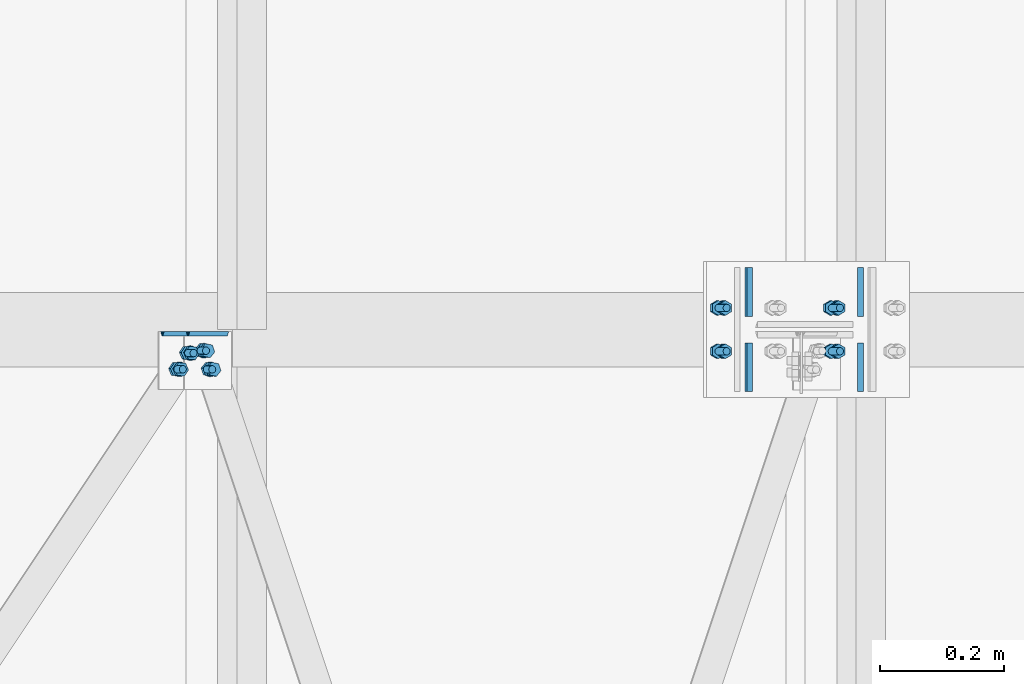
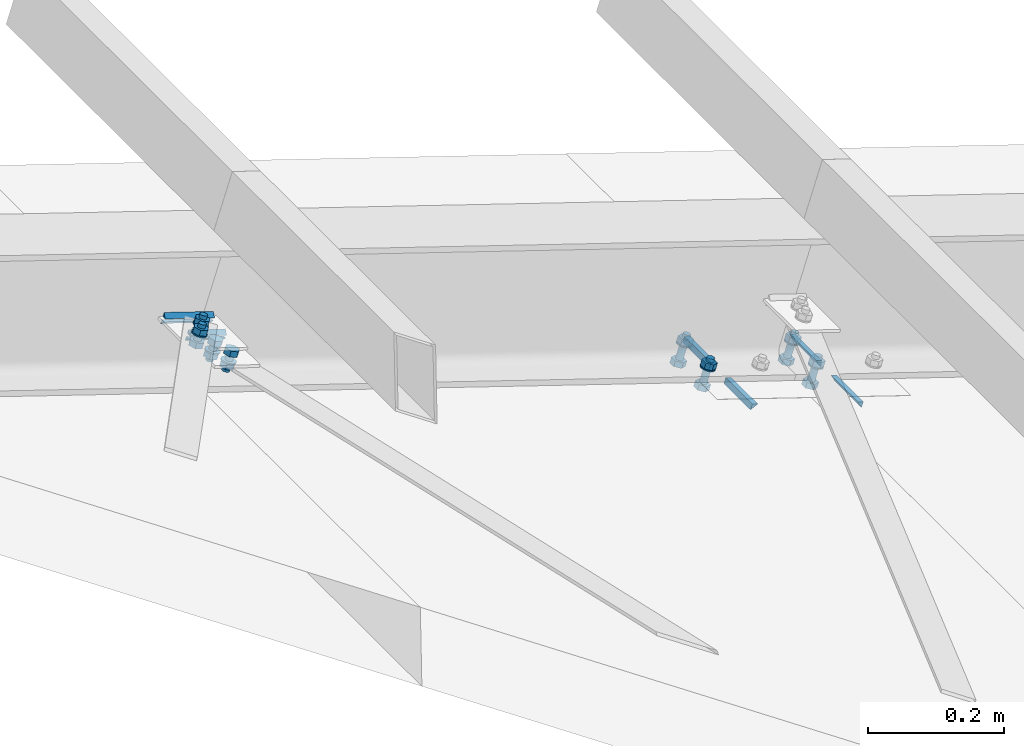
# One storey, part 49 of 53: 32 mechanical fasteners, 12 fasteners.
"""IFC4 building model written with IfcOpenShell, lengths in metres."""

from ifc_helpers import new_model, si_unit, frame, origin_with_axes, place, context, project, spatial, polyline, outline, extrude, type_object, element, save


model = new_model("IFC4")

# Units and contexts
model_context = context("Model", 3, precision=1e-05, world=origin_with_axes())
ifc_project = project(units=[si_unit("LENGTHUNIT", "METRE"), si_unit("AREAUNIT", "SQUARE_METRE"), si_unit("VOLUMEUNIT", "CUBIC_METRE"), si_unit("MASSUNIT", "GRAM", prefix="KILO"), si_unit("TIMEUNIT", "SECOND"), si_unit("PLANEANGLEUNIT", "RADIAN"), si_unit("SOLIDANGLEUNIT", "STERADIAN"), si_unit("THERMODYNAMICTEMPERATUREUNIT", "DEGREE_CELSIUS")], contexts=[model_context])

# Site, building, storey
placement_1 = place(None, origin_with_axes())
site = spatial("IfcSite", under=ifc_project, at=placement_1, Name="Italia", CompositionType="ELEMENT")
building = spatial("IfcBuilding", under=site, at=placement_1, Name="Capannone", CompositionType="ELEMENT")
storey_placement = place(None, frame((0.0, 0.0, 5.550000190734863), z_axis=(0.0, 0.0, 1.0), x_axis=(1.0, 0.0, 0.0)))
storey = spatial("IfcBuildingStorey", under=building, at=storey_placement, Name="Storey 1", CompositionType="ELEMENT", Elevation=5.550000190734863)

# Mechanical fasteners
mechanical_fastener_type_1 = type_object("IfcMechanicalFastenerType", Name="Collegamento -1058_-1088", PredefinedType="BOLT")
placement_2 = place(placement_1, origin_with_axes())
mechanical_fastener_1_placement = place(placement_2, origin_with_axes())
element("IfcMechanicalFastener", 1, at=mechanical_fastener_1_placement, inside=storey, type_object=mechanical_fastener_type_1, Name="Collegamento -1058_-1088", NominalDiameter=0.0119995, context=model_context, shape_type="SweptSolid", body=[
    extrude(outline(polyline([(0.0, 0.0), (-0.00982285, -0.00689316), (-0.00876522, -0.0188465), (0.0021162, -0.0239067), (0.011939, -0.0170145), (0.0108805, -0.0050602), (0.0, 0.0)])), frame((12.9922, 14.9631, 5.97849), z_axis=(-0.312127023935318, 0.0, -0.950040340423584), x_axis=(0.0, -1.0, 0.0)), (0.0, 0.0, 1.0), 0.00960008),
])
mechanical_fastener_type_2 = type_object("IfcMechanicalFastenerType", Name="Collegamento -1058_-1088", PredefinedType="BOLT")
mechanical_fastener_2_placement = place(placement_2, origin_with_axes())
element("IfcMechanicalFastener", 2, at=mechanical_fastener_2_placement, inside=storey, type_object=mechanical_fastener_type_2, Name="Collegamento -1058_-1088", NominalDiameter=0.012, context=model_context, shape_type="SweptSolid", body=[
    extrude(outline(polyline([(0.0, 0.0), (-0.000204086, -0.00155258), (-0.000802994, -0.00300026), (-0.00175667, -0.00424194), (-0.00299931, -0.00519657), (-0.00444698, -0.00579548), (-0.00599957, -0.00600052), (-0.00755215, -0.00579548), (-0.00899982, -0.00519657), (-0.0102425, -0.00424194), (-0.0111961, -0.00300026), (-0.011795, -0.00155258), (-0.0119991, 0.0), (-0.011795, 0.00155258), (-0.0111961, 0.00300026), (-0.0102425, 0.0042429), (-0.00899982, 0.00519562), (-0.00755215, 0.00579548), (-0.00599957, 0.00599957), (-0.00444698, 0.00579548), (-0.00299931, 0.00519562), (-0.00175667, 0.0042429), (-0.000802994, 0.00300026), (-0.000204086, 0.00155258), (0.0, 0.0)])), frame((13.0123, 14.9561, 6.00136), z_axis=(-0.312158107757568, 0.0, -0.950030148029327), x_axis=(0.0, -1.0, 0.0)), (0.0, 0.0, 1.0), 0.028),
])
mechanical_fastener_type_3 = type_object("IfcMechanicalFastenerType", Name="Collegamento -1058_-1088", PredefinedType="BOLT")
mechanical_fastener_3_placement = place(placement_2, origin_with_axes())
element("IfcMechanicalFastener", 3, at=mechanical_fastener_3_placement, inside=storey, type_object=mechanical_fastener_type_3, Name="Collegamento -1058_-1088", NominalDiameter=0.0119995, context=model_context, shape_type="SweptSolid", body=[
    extrude(outline(polyline([(0.0, 0.0), (-0.00982285, -0.0068922), (-0.00876522, -0.0188465), (0.0021162, -0.0239067), (0.011939, -0.0170126), (0.0108805, -0.0050602), (0.0, 0.0)])), frame((12.999, 14.9631, 5.99901), z_axis=(-0.312127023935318, 0.0, -0.950040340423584), x_axis=(0.0, -1.0, 0.0)), (0.0, 0.0, 1.0), 0.00960008),
])
mechanical_fastener_type_4 = type_object("IfcMechanicalFastenerType", Name="Collegamento -1058_-1088", PredefinedType="BOLT")
mechanical_fastener_4_placement = place(placement_2, origin_with_axes())
element("IfcMechanicalFastener", 4, at=mechanical_fastener_4_placement, inside=storey, type_object=mechanical_fastener_type_4, Name="Collegamento -1058_-1088", NominalDiameter=0.024, context=model_context, shape_type="SweptSolid", body=[
    extrude(outline(polyline([(0.0, 0.0), (-0.000409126, -0.00310516), (-0.00160789, -0.00600052), (-0.00351524, -0.00848579), (-0.00600052, -0.0103922), (-0.00889397, -0.0115919), (-0.0120001, -0.0120001), (-0.0151062, -0.0115919), (-0.0179996, -0.0103922), (-0.0204849, -0.00848579), (-0.0223923, -0.00600052), (-0.023591, -0.00310516), (-0.0240002, 0.0), (-0.023591, 0.00310612), (-0.0223923, 0.00600052), (-0.0204849, 0.00848579), (-0.0179996, 0.0103922), (-0.0151062, 0.011591), (-0.0120001, 0.0120001), (-0.00889397, 0.011591), (-0.00600052, 0.0103922), (-0.00351524, 0.00848579), (-0.00160789, 0.00600052), (-0.000409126, 0.00310612), (0.0, 0.0)])), frame((13.0073, 14.9501, 5.98616), z_axis=(-0.311931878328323, 0.0, -0.950104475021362), x_axis=(0.0, -1.0, 0.0)), (0.0, 0.0, 1.0), 0.00199948),
])
mechanical_fastener_type_5 = type_object("IfcMechanicalFastenerType", Name="Collegamento -1058_-1088", PredefinedType="BOLT")
mechanical_fastener_5_placement = place(placement_2, origin_with_axes())
element("IfcMechanicalFastener", 5, at=mechanical_fastener_5_placement, inside=storey, type_object=mechanical_fastener_type_5, Name="Collegamento -1058_-1088", NominalDiameter=0.0119994, context=model_context, shape_type="SweptSolid", body=[
    extrude(outline(polyline([(0.0, 0.0), (-0.00982285, -0.0068922), (-0.00876427, -0.0188465), (0.0021162, -0.0239067), (0.011939, -0.0170126), (0.0108814, -0.0050602), (0.0, 0.0)])), frame((12.9748, 14.9369, 5.98423), z_axis=(-0.312216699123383, 0.0, -0.950010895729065), x_axis=(0.0, -1.0, 0.0)), (0.0, 0.0, 1.0), 0.00960038),
])
mechanical_fastener_type_6 = type_object("IfcMechanicalFastenerType", Name="Collegamento -1058_-1088", PredefinedType="BOLT")
mechanical_fastener_6_placement = place(placement_2, origin_with_axes())
element("IfcMechanicalFastener", 6, at=mechanical_fastener_6_placement, inside=storey, type_object=mechanical_fastener_type_6, Name="Collegamento -1058_-1088", NominalDiameter=0.012, context=model_context, shape_type="SweptSolid", body=[
    extrude(outline(polyline([(0.0, 0.0), (-0.000204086, -0.00155354), (-0.000802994, -0.00300121), (-0.00175667, -0.0042429), (-0.00299931, -0.00519657), (-0.00444698, -0.00579548), (-0.00599957, -0.00600052), (-0.00755215, -0.00579548), (-0.00899982, -0.00519657), (-0.0102425, -0.0042429), (-0.0111961, -0.00300121), (-0.011795, -0.00155354), (-0.0119991, 0.0), (-0.011795, 0.00155163), (-0.0111961, 0.00299931), (-0.0102425, 0.00424099), (-0.00899982, 0.00519466), (-0.00755215, 0.00579453), (-0.00599957, 0.00599957), (-0.00444698, 0.00579453), (-0.00299931, 0.00519466), (-0.00175667, 0.00424099), (-0.000802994, 0.00299931), (-0.000204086, 0.00155163), (0.0, 0.0)])), frame((12.9949, 14.9299, 6.00709), z_axis=(-0.312127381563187, 0.0, -0.950040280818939), x_axis=(0.0, -1.0, 0.0)), (0.0, 0.0, 1.0), 0.0279997),
])
mechanical_fastener_type_7 = type_object("IfcMechanicalFastenerType", Name="Collegamento -1058_-1088", PredefinedType="BOLT")
mechanical_fastener_7_placement = place(placement_2, origin_with_axes())
element("IfcMechanicalFastener", 7, at=mechanical_fastener_7_placement, inside=storey, type_object=mechanical_fastener_type_7, Name="Collegamento -1058_-1088", NominalDiameter=0.0119994, context=model_context, shape_type="SweptSolid", body=[
    extrude(outline(polyline([(0.0, 0.0), (-0.00982285, -0.00689316), (-0.00876427, -0.0188465), (0.0021162, -0.0239067), (0.011939, -0.0170126), (0.0108814, -0.0050602), (0.0, 0.0)])), frame((12.9815, 14.9369, 6.00475), z_axis=(-0.312127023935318, 0.0, -0.950040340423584), x_axis=(0.0, -1.0, 0.0)), (0.0, 0.0, 1.0), 0.00960008),
])
mechanical_fastener_type_8 = type_object("IfcMechanicalFastenerType", Name="Collegamento -1058_-1088", PredefinedType="BOLT")
mechanical_fastener_8_placement = place(placement_2, origin_with_axes())
element("IfcMechanicalFastener", 8, at=mechanical_fastener_8_placement, inside=storey, type_object=mechanical_fastener_type_8, Name="Collegamento -1058_-1088", NominalDiameter=0.024, context=model_context, shape_type="SweptSolid", body=[
    extrude(outline(polyline([(0.0, 0.0), (-0.000409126, -0.00310516), (-0.00160789, -0.00599957), (-0.00351524, -0.00848484), (-0.00600052, -0.0103922), (-0.00889397, -0.011591), (-0.0120001, -0.0120001), (-0.0151062, -0.011591), (-0.0179996, -0.0103922), (-0.0204849, -0.00848484), (-0.0223923, -0.00599957), (-0.023591, -0.00310516), (-0.0240002, 0.0), (-0.023591, 0.00310612), (-0.0223923, 0.00600052), (-0.0204849, 0.00848484), (-0.0179996, 0.0103931), (-0.0151062, 0.0115919), (-0.0120001, 0.0120001), (-0.00889397, 0.0115919), (-0.00600052, 0.0103931), (-0.00351524, 0.00848484), (-0.00160789, 0.00600052), (-0.000409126, 0.00310612), (0.0, 0.0)])), frame((12.9899, 14.9239, 5.99189), z_axis=(-0.312721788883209, 0.0, -0.949844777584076), x_axis=(0.0, -1.0, 0.0)), (0.0, 0.0, 1.0), 0.00200053),
])

# Fasteners
fastener_type_1 = type_object("IfcFastenerType", Name="Collegamento -1058_-1088", PredefinedType="WELD")
fastener_1_placement = place(placement_2, origin_with_axes())
element("IfcFastener", 9, at=fastener_1_placement, inside=storey, type_object=fastener_type_1, Name="Collegamento -1058_-1088", context=model_context, shape_type="SweptSolid", body=[
    extrude(outline(polyline([(0.0, 0.0), (0.00717258, -0.00695896), (0.0, -0.00695896), (0.0, 0.0)])), frame((13.0486, 14.9969, 5.97249), z_axis=(-0.950031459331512, 0.0, 0.31215426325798), x_axis=(0.0, -1.0, 0.0)), (0.0, 0.0, 1.0), 0.0881025),
])
fastener_type_2 = type_object("IfcFastenerType", Name="Collegamento -1058_-1088", PredefinedType="WELD")
fastener_2_placement = place(placement_2, origin_with_axes())
element("IfcFastener", 10, at=fastener_2_placement, inside=storey, type_object=fastener_type_2, Name="Collegamento -1058_-1088", context=model_context, shape_type="SweptSolid", body=[
    extrude(outline(polyline([(0.0, 0.0), (-0.00717258, 0.00695705), (0.0, 0.00695705), (0.0, 0.0)])), frame((12.959, 14.9969, 5.98212), z_axis=(0.950027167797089, 0.0, -0.312167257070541), x_axis=(0.0, 1.0, 0.0)), (0.0, 0.0, 1.0), 0.0881019),
])

# Mechanical fasteners
mechanical_fastener_type_9 = type_object("IfcMechanicalFastenerType", Name="Collegamento -1058_0110", PredefinedType="BOLT")
mechanical_fastener_9_placement = place(placement_2, origin_with_axes())
element("IfcMechanicalFastener", 11, at=mechanical_fastener_9_placement, inside=storey, type_object=mechanical_fastener_type_9, Name="Collegamento -1058_0110", NominalDiameter=0.0119997, context=model_context, shape_type="SweptSolid", body=[
    extrude(outline(polyline([(0.0, 0.0), (0.0113239, 0.00397396), (0.0135441, 0.0157671), (0.00444221, 0.0235863), (-0.00688076, 0.0196133), (-0.00910187, 0.00782013), (0.0, 0.0)])), frame((13.0436, 14.9638, 5.93529), z_axis=(0.312127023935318, 0.0, 0.950040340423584), x_axis=(0.0, 1.0, 0.0)), (0.0, 0.0, 1.0), 0.00960008),
])
mechanical_fastener_type_10 = type_object("IfcMechanicalFastenerType", Name="Collegamento -1058_0110", PredefinedType="BOLT")
mechanical_fastener_10_placement = place(placement_2, origin_with_axes())
element("IfcMechanicalFastener", 12, at=mechanical_fastener_10_placement, inside=storey, type_object=mechanical_fastener_type_10, Name="Collegamento -1058_0110", NominalDiameter=0.012, context=model_context, shape_type="SweptSolid", body=[
    extrude(outline(polyline([(0.0, 0.0), (-0.000204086, -0.00155258), (-0.000802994, -0.00300026), (-0.00175667, -0.00424194), (-0.00299931, -0.00519562), (-0.00444698, -0.00579453), (-0.00599957, -0.00599957), (-0.00755215, -0.00579453), (-0.00899982, -0.00519562), (-0.0102425, -0.00424194), (-0.0111961, -0.00300026), (-0.011795, -0.00155258), (-0.0119991, 0.0), (-0.011795, 0.00155354), (-0.0111961, 0.00300121), (-0.0102425, 0.0042429), (-0.00899982, 0.00519562), (-0.00755215, 0.00579643), (-0.00599957, 0.00600052), (-0.00444698, 0.00579643), (-0.00299931, 0.00519562), (-0.00175667, 0.0042429), (-0.000802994, 0.00300121), (-0.000204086, 0.00155354), (0.0, 0.0)])), frame((13.0237, 14.972, 5.91237), z_axis=(0.312158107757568, 0.0, 0.950030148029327), x_axis=(0.0, 1.0, 0.0)), (0.0, 0.0, 1.0), 0.028),
])
mechanical_fastener_type_11 = type_object("IfcMechanicalFastenerType", Name="Collegamento -1058_0110", PredefinedType="BOLT")
mechanical_fastener_11_placement = place(placement_2, origin_with_axes())
element("IfcMechanicalFastener", 13, at=mechanical_fastener_11_placement, inside=storey, type_object=mechanical_fastener_type_11, Name="Collegamento -1058_0110", NominalDiameter=0.0119997, context=model_context, shape_type="SweptSolid", body=[
    extrude(outline(polyline([(0.0, 0.0), (0.0113239, 0.00397301), (0.0135441, 0.0157661), (0.00444221, 0.0235853), (-0.00688076, 0.0196123), (-0.00910187, 0.00781918), (0.0, 0.0)])), frame((13.0369, 14.9638, 5.91477), z_axis=(0.312127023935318, 0.0, 0.950040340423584), x_axis=(0.0, 1.0, 0.0)), (0.0, 0.0, 1.0), 0.00960008),
])
mechanical_fastener_type_12 = type_object("IfcMechanicalFastenerType", Name="Collegamento -1058_0110", PredefinedType="BOLT")
mechanical_fastener_12_placement = place(placement_2, origin_with_axes())
element("IfcMechanicalFastener", 14, at=mechanical_fastener_12_placement, inside=storey, type_object=mechanical_fastener_type_12, Name="Collegamento -1058_0110", NominalDiameter=0.024, context=model_context, shape_type="SweptSolid", body=[
    extrude(outline(polyline([(0.0, 0.0), (-0.000409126, -0.00310612), (-0.00160789, -0.00600052), (-0.00351524, -0.00848484), (-0.00600052, -0.0103922), (-0.00889397, -0.0115919), (-0.0120001, -0.012001), (-0.0151062, -0.0115919), (-0.0179996, -0.0103922), (-0.0204849, -0.00848484), (-0.0223923, -0.00600052), (-0.023591, -0.00310612), (-0.0240002, 0.0), (-0.023591, 0.00310516), (-0.0223923, 0.00599957), (-0.0204849, 0.00848389), (-0.0179996, 0.0103912), (-0.0151062, 0.011591), (-0.0120001, 0.0120001), (-0.00889397, 0.011591), (-0.00600052, 0.0103912), (-0.00351524, 0.00848389), (-0.00160789, 0.00599957), (-0.000409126, 0.00310516), (0.0, 0.0)])), frame((13.0287, 14.978, 5.92757), z_axis=(0.312291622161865, 0.0, 0.949986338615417), x_axis=(0.0, 1.0, 0.0)), (0.0, 0.0, 1.0), 0.00200024),
])
mechanical_fastener_type_13 = type_object("IfcMechanicalFastenerType", Name="Collegamento -1058_0110", PredefinedType="BOLT")
mechanical_fastener_13_placement = place(placement_2, origin_with_axes())
element("IfcMechanicalFastener", 15, at=mechanical_fastener_13_placement, inside=storey, type_object=mechanical_fastener_type_13, Name="Collegamento -1058_0110", NominalDiameter=0.0119992, context=model_context, shape_type="SweptSolid", body=[
    extrude(outline(polyline([(0.0, 0.0), (0.011323, 0.00397301), (0.0135441, 0.0157652), (0.00444221, 0.0235844), (-0.00688076, 0.0196123), (-0.00910187, 0.00781918), (0.0, 0.0)])), frame((13.0537, 14.9336, 5.93198), z_axis=(0.312127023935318, 0.0, 0.950040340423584), x_axis=(0.0, 1.0, 0.0)), (0.0, 0.0, 1.0), 0.00960008),
])
mechanical_fastener_type_14 = type_object("IfcMechanicalFastenerType", Name="Collegamento -1058_0110", PredefinedType="BOLT")
mechanical_fastener_14_placement = place(placement_2, origin_with_axes())
element("IfcMechanicalFastener", 16, at=mechanical_fastener_14_placement, inside=storey, type_object=mechanical_fastener_type_14, Name="Collegamento -1058_0110", NominalDiameter=0.012, context=model_context, shape_type="SweptSolid", body=[
    extrude(outline(polyline([(0.0, 0.0), (-0.000204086, -0.00155258), (-0.000802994, -0.00300026), (-0.00175667, -0.00424099), (-0.00299931, -0.00519562), (-0.00444698, -0.00579453), (-0.00599957, -0.00599957), (-0.00755215, -0.00579453), (-0.00899982, -0.00519562), (-0.0102425, -0.00424099), (-0.0111961, -0.00300026), (-0.011795, -0.00155258), (-0.0119991, 0.0), (-0.011795, 0.00155354), (-0.0111961, 0.00300121), (-0.0102425, 0.00424194), (-0.00899982, 0.00519657), (-0.00755215, 0.00579548), (-0.00599957, 0.00600052), (-0.00444698, 0.00579548), (-0.00299931, 0.00519657), (-0.00175667, 0.00424194), (-0.000802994, 0.00300121), (-0.000204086, 0.00155354), (0.0, 0.0)])), frame((13.0337, 14.9418, 5.90906), z_axis=(0.312158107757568, 0.0, 0.950030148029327), x_axis=(0.0, 1.0, 0.0)), (0.0, 0.0, 1.0), 0.028),
])
mechanical_fastener_type_15 = type_object("IfcMechanicalFastenerType", Name="Collegamento -1058_0110", PredefinedType="BOLT")
mechanical_fastener_15_placement = place(placement_2, origin_with_axes())
element("IfcMechanicalFastener", 17, at=mechanical_fastener_15_placement, inside=storey, type_object=mechanical_fastener_type_15, Name="Collegamento -1058_0110", NominalDiameter=0.0119992, context=model_context, shape_type="SweptSolid", body=[
    extrude(outline(polyline([(0.0, 0.0), (0.011323, 0.00397301), (0.0135441, 0.0157661), (0.00444221, 0.0235853), (-0.00688076, 0.0196123), (-0.00910187, 0.00781918), (0.0, 0.0)])), frame((13.0469, 14.9336, 5.91146), z_axis=(0.312127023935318, 0.0, 0.950040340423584), x_axis=(0.0, 1.0, 0.0)), (0.0, 0.0, 1.0), 0.00960008),
])
mechanical_fastener_type_16 = type_object("IfcMechanicalFastenerType", Name="Collegamento -1058_0110", PredefinedType="BOLT")
mechanical_fastener_16_placement = place(placement_2, origin_with_axes())
element("IfcMechanicalFastener", 18, at=mechanical_fastener_16_placement, inside=storey, type_object=mechanical_fastener_type_16, Name="Collegamento -1058_0110", NominalDiameter=0.024, context=model_context, shape_type="SweptSolid", body=[
    extrude(outline(polyline([(0.0, 0.0), (-0.000409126, -0.00310707), (-0.00160789, -0.00600052), (-0.00351524, -0.00848579), (-0.00600052, -0.0103931), (-0.00889397, -0.0115919), (-0.0120001, -0.0120001), (-0.0151062, -0.0115919), (-0.0179996, -0.0103931), (-0.0204849, -0.00848579), (-0.0223923, -0.00600052), (-0.023591, -0.00310707), (-0.0240002, 0.0), (-0.023591, 0.00310612), (-0.0223923, 0.00599957), (-0.0204849, 0.00848484), (-0.0179996, 0.0103922), (-0.0151062, 0.011591), (-0.0120001, 0.0119991), (-0.00889397, 0.011591), (-0.00600052, 0.0103922), (-0.00351524, 0.00848484), (-0.00160789, 0.00599957), (-0.000409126, 0.00310612), (0.0, 0.0)])), frame((13.0387, 14.9478, 5.92426), z_axis=(0.312362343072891, 0.0, 0.94996303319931), x_axis=(0.0, 1.0, 0.0)), (0.0, 0.0, 1.0), 0.00199978),
])

# Fasteners
fastener_type_3 = type_object("IfcFastenerType", Name="Collegamento -1058_0110", PredefinedType="WELD")
fastener_3_placement = place(placement_2, origin_with_axes())
element("IfcFastener", 19, at=fastener_3_placement, inside=storey, type_object=fastener_type_3, Name="Collegamento -1058_0110", context=model_context, shape_type="SweptSolid", body=[
    extrude(outline(polyline([(0.0, 0.0), (-0.00717258, 0.00695801), (0.0, 0.00695801), (0.0, 0.0)])), frame((13.0003, 14.9969, 5.93699), z_axis=(0.950027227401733, 0.0, -0.312167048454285), x_axis=(0.0, 1.0, 0.0)), (0.0, 0.0, 1.0), 0.0660998),
])
fastener_type_4 = type_object("IfcFastenerType", Name="Collegamento -1058_0110", PredefinedType="WELD")
fastener_4_placement = place(placement_2, origin_with_axes())
element("IfcFastener", 20, at=fastener_4_placement, inside=storey, type_object=fastener_type_4, Name="Collegamento -1058_0110", context=model_context, shape_type="SweptSolid", body=[
    extrude(outline(polyline([(0.0, 0.0), (0.00717258, -0.00695896), (0.0, -0.00695896), (0.0, 0.0)])), frame((13.069, 14.9969, 5.93423), z_axis=(-0.95003080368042, 0.0, 0.31215626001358), x_axis=(0.0, -1.0, 0.0)), (0.0, 0.0, 1.0), 0.0661005),
])
fastener_type_5 = type_object("IfcFastenerType", Name="Collegamenti 0102_0002 0104_0004 0106_0006 0108_0008 0110_0010 0112_0012", PredefinedType="WELD")
fastener_5_placement = place(placement_2, origin_with_axes())
element("IfcFastener", 21, at=fastener_5_placement, inside=storey, type_object=fastener_type_5, Name="Collegamenti 0102_0002 0104_0004 0106_0006 0108_0008 0110_0010 0112_0012", context=model_context, shape_type="SweptSolid", body=[
    extrude(outline(polyline([(0.0, 0.0), (-0.0125504, -0.00658464), (-0.00937462, 0.00308037), (0.0, 0.0)])), frame((13.9153, 15.1, 5.56208), z_axis=(0.0, -1.0, 0.0), x_axis=(1.0, 0.0, 0.0)), (0.0, 0.0, 1.0), 0.0785999),
])
fastener_type_6 = type_object("IfcFastenerType", Name="Collegamenti 0102_0002 0104_0004 0106_0006 0108_0008 0110_0010 0112_0012", PredefinedType="WELD")
fastener_6_placement = place(placement_2, origin_with_axes())
element("IfcFastener", 22, at=fastener_6_placement, inside=storey, type_object=fastener_type_6, Name="Collegamenti 0102_0002 0104_0004 0106_0006 0108_0008 0110_0010 0112_0012", context=model_context, shape_type="SweptSolid", body=[
    extrude(outline(polyline([(0.0, 0.0), (-0.00619984, -0.0127454), (-0.00937557, -0.00308037), (0.0, 0.0)])), frame((14.0847, 15.0215, 5.50644), z_axis=(0.0, 1.0, 0.0), x_axis=(-1.0, 0.0, 0.0)), (0.0, 0.0, 1.0), 0.0785999),
])
fastener_type_7 = type_object("IfcFastenerType", Name="Collegamenti 0102_0002 0104_0004 0106_0006 0108_0008 0110_0010 0112_0012", PredefinedType="WELD")
fastener_7_placement = place(placement_2, origin_with_axes())
element("IfcFastener", 23, at=fastener_7_placement, inside=storey, type_object=fastener_type_7, Name="Collegamenti 0102_0002 0104_0004 0106_0006 0108_0008 0110_0010 0112_0012", context=model_context, shape_type="SweptSolid", body=[
    extrude(outline(polyline([(0.0, 0.0), (-0.00619984, -0.0127454), (-0.00937557, -0.00308037), (0.0, 0.0)])), frame((14.0847, 14.9, 5.50644), z_axis=(0.0, 1.0, 0.0), x_axis=(-1.0, 0.0, 0.0)), (0.0, 0.0, 1.0), 0.0785999),
])
fastener_type_8 = type_object("IfcFastenerType", Name="Collegamenti 0102_0002 0104_0004 0106_0006 0108_0008 0110_0010 0112_0012", PredefinedType="WELD")
fastener_8_placement = place(placement_2, origin_with_axes())
element("IfcFastener", 24, at=fastener_8_placement, inside=storey, type_object=fastener_type_8, Name="Collegamenti 0102_0002 0104_0004 0106_0006 0108_0008 0110_0010 0112_0012", context=model_context, shape_type="SweptSolid", body=[
    extrude(outline(polyline([(0.0, 0.0), (-0.0125504, -0.00658464), (-0.00937462, 0.00308037), (0.0, 0.0)])), frame((13.9153, 14.9785, 5.56208), z_axis=(0.0, -1.0, 0.0), x_axis=(1.0, 0.0, 0.0)), (0.0, 0.0, 1.0), 0.0785999),
])
fastener_type_9 = type_object("IfcFastenerType", Name="Collegamenti 0102_0002 0104_0004 0106_0006 0108_0008 0110_0010 0112_0012", PredefinedType="WELD")
fastener_9_placement = place(placement_2, origin_with_axes())
element("IfcFastener", 25, at=fastener_9_placement, inside=storey, type_object=fastener_type_9, Name="Collegamenti 0102_0002 0104_0004 0106_0006 0108_0008 0110_0010 0112_0012", context=model_context, shape_type="SweptSolid", body=[
    extrude(outline(polyline([(0.0, 0.0), (-0.0125504, -0.00658464), (-0.00937462, 0.00308037), (0.0, 0.0)])), frame((13.9153, 15.1, 5.56208), z_axis=(0.0, -1.0, 0.0), x_axis=(1.0, 0.0, 0.0)), (0.0, 0.0, 1.0), 0.0785999),
])
fastener_type_10 = type_object("IfcFastenerType", Name="Collegamenti 0102_0002 0104_0004 0106_0006 0108_0008 0110_0010 0112_0012", PredefinedType="WELD")
fastener_10_placement = place(placement_2, origin_with_axes())
element("IfcFastener", 26, at=fastener_10_placement, inside=storey, type_object=fastener_type_10, Name="Collegamenti 0102_0002 0104_0004 0106_0006 0108_0008 0110_0010 0112_0012", context=model_context, shape_type="SweptSolid", body=[
    extrude(outline(polyline([(0.0, 0.0), (-0.00619984, -0.0127454), (-0.00937557, -0.00308037), (0.0, 0.0)])), frame((14.0847, 15.0215, 5.50644), z_axis=(0.0, 1.0, 0.0), x_axis=(-1.0, 0.0, 0.0)), (0.0, 0.0, 1.0), 0.0785999),
])
fastener_type_11 = type_object("IfcFastenerType", Name="Collegamenti 0102_0002 0104_0004 0106_0006 0108_0008 0110_0010 0112_0012", PredefinedType="WELD")
fastener_11_placement = place(placement_2, origin_with_axes())
element("IfcFastener", 27, at=fastener_11_placement, inside=storey, type_object=fastener_type_11, Name="Collegamenti 0102_0002 0104_0004 0106_0006 0108_0008 0110_0010 0112_0012", context=model_context, shape_type="SweptSolid", body=[
    extrude(outline(polyline([(0.0, 0.0), (-0.00619984, -0.0127454), (-0.00937557, -0.00308037), (0.0, 0.0)])), frame((14.0847, 14.9, 5.50644), z_axis=(0.0, 1.0, 0.0), x_axis=(-1.0, 0.0, 0.0)), (0.0, 0.0, 1.0), 0.0785999),
])
fastener_type_12 = type_object("IfcFastenerType", Name="Collegamenti 0102_0002 0104_0004 0106_0006 0108_0008 0110_0010 0112_0012", PredefinedType="WELD")
fastener_12_placement = place(placement_2, origin_with_axes())
element("IfcFastener", 28, at=fastener_12_placement, inside=storey, type_object=fastener_type_12, Name="Collegamenti 0102_0002 0104_0004 0106_0006 0108_0008 0110_0010 0112_0012", context=model_context, shape_type="SweptSolid", body=[
    extrude(outline(polyline([(0.0, 0.0), (-0.0125504, -0.00658464), (-0.00937462, 0.00308037), (0.0, 0.0)])), frame((13.9153, 14.9785, 5.56208), z_axis=(0.0, -1.0, 0.0), x_axis=(1.0, 0.0, 0.0)), (0.0, 0.0, 1.0), 0.0785999),
])

# Mechanical fasteners
mechanical_fastener_type_17 = type_object("IfcMechanicalFastenerType", Name="Collegamenti 0102_0002 0104_0004 0106_0006 0108_0008 0110_0010 0112_0012", PredefinedType="BOLT")
mechanical_fastener_17_placement = place(placement_2, origin_with_axes())
element("IfcMechanicalFastener", 29, at=mechanical_fastener_17_placement, inside=storey, type_object=mechanical_fastener_type_17, Name="Collegamenti 0102_0002 0104_0004 0106_0006 0108_0008 0110_0010 0112_0012", NominalDiameter=0.0120001, context=model_context, shape_type="SweptSolid", body=[
    extrude(outline(polyline([(0.0, 0.0), (-0.0120001, 0.0), (-0.0179996, 0.0103931), (-0.0120001, 0.0207853), (0.0, 0.0207853), (0.00600052, 0.0103931), (0.0, 0.0)])), frame((13.8697, 15.029, 5.57702), z_axis=(-0.312231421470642, 0.0, -0.950006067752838), x_axis=(0.0, -1.0, 0.0)), (0.0, 0.0, 1.0), 0.00959993),
])
mechanical_fastener_type_18 = type_object("IfcMechanicalFastenerType", Name="Collegamenti 0102_0002 0104_0004 0106_0006 0108_0008 0110_0010 0112_0012", PredefinedType="BOLT")
mechanical_fastener_18_placement = place(placement_2, origin_with_axes())
element("IfcMechanicalFastener", 30, at=mechanical_fastener_18_placement, inside=storey, type_object=mechanical_fastener_type_18, Name="Collegamenti 0102_0002 0104_0004 0106_0006 0108_0008 0110_0010 0112_0012", NominalDiameter=0.012, context=model_context, shape_type="SweptSolid", body=[
    extrude(outline(polyline([(0.0, 0.0), (-0.000204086, -0.00155354), (-0.000802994, -0.00300121), (-0.00175667, -0.0042429), (-0.00299931, -0.00519562), (-0.00444698, -0.00579548), (-0.00599957, -0.00599957), (-0.00755215, -0.00579548), (-0.00899982, -0.00519562), (-0.0102425, -0.0042429), (-0.0111961, -0.00300121), (-0.011795, -0.00155354), (-0.0119991, 0.0), (-0.011795, 0.00155258), (-0.0111961, 0.00300026), (-0.0102425, 0.00424194), (-0.00899982, 0.00519562), (-0.00755215, 0.00579548), (-0.00599957, 0.00599957), (-0.00444698, 0.00579548), (-0.00299931, 0.00519562), (-0.00175667, 0.00424194), (-0.000802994, 0.00300026), (-0.000204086, 0.00155258), (0.0, 0.0)])), frame((13.8732, 15.029, 5.62092), z_axis=(-0.312153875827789, 0.0, -0.950031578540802), x_axis=(0.0, -1.0, 0.0)), (0.0, 0.0, 1.0), 0.0427995),
])
mechanical_fastener_type_19 = type_object("IfcMechanicalFastenerType", Name="Collegamenti 0102_0002 0104_0004 0106_0006 0108_0008 0110_0010 0112_0012", PredefinedType="BOLT")
mechanical_fastener_19_placement = place(placement_2, origin_with_axes())
element("IfcMechanicalFastener", 31, at=mechanical_fastener_19_placement, inside=storey, type_object=mechanical_fastener_type_19, Name="Collegamenti 0102_0002 0104_0004 0106_0006 0108_0008 0110_0010 0112_0012", NominalDiameter=0.0119993, context=model_context, shape_type="SweptSolid", body=[
    extrude(outline(polyline([(0.0, 0.0), (-0.0120001, 0.0), (-0.0179996, 0.0103922), (-0.0120001, 0.0207844), (0.0, 0.0207844), (0.00600052, 0.0103922), (0.0, 0.0)])), frame((13.8811, 15.029, 5.6116), z_axis=(-0.312141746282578, 0.0, -0.950035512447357), x_axis=(0.0, -1.0, 0.0)), (0.0, 0.0, 1.0), 0.00959963),
])
mechanical_fastener_type_20 = type_object("IfcMechanicalFastenerType", Name="Collegamenti 0102_0002 0104_0004 0106_0006 0108_0008 0110_0010 0112_0012", PredefinedType="BOLT")
mechanical_fastener_20_placement = place(placement_2, origin_with_axes())
element("IfcMechanicalFastener", 32, at=mechanical_fastener_20_placement, inside=storey, type_object=mechanical_fastener_type_20, Name="Collegamenti 0102_0002 0104_0004 0106_0006 0108_0008 0110_0010 0112_0012", NominalDiameter=0.024, context=model_context, shape_type="SweptSolid", body=[
    extrude(outline(polyline([(0.0, 0.0), (-0.000409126, -0.00310612), (-0.00160789, -0.00600052), (-0.00351524, -0.00848484), (-0.00600052, -0.0103931), (-0.00889397, -0.011591), (-0.0120001, -0.0120001), (-0.0151062, -0.011591), (-0.0179996, -0.0103931), (-0.0204849, -0.00848484), (-0.0223923, -0.00600052), (-0.023591, -0.00310612), (-0.0240002, 0.0), (-0.023591, 0.00310516), (-0.0223923, 0.00599957), (-0.0204849, 0.00848484), (-0.0179996, 0.0103922), (-0.0151062, 0.01159), (-0.0120001, 0.0119991), (-0.00889397, 0.01159), (-0.00600052, 0.0103922), (-0.00351524, 0.00848484), (-0.00160789, 0.00599957), (-0.000409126, 0.00310516), (0.0, 0.0)])), frame((13.8682, 15.023, 5.60572), z_axis=(-0.312362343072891, 0.0, -0.94996303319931), x_axis=(0.0, -1.0, 0.0)), (0.0, 0.0, 1.0), 0.00199978),
])
mechanical_fastener_type_21 = type_object("IfcMechanicalFastenerType", Name="Collegamenti 0102_0002 0104_0004 0106_0006 0108_0008 0110_0010 0112_0012", PredefinedType="BOLT")
mechanical_fastener_21_placement = place(placement_2, origin_with_axes())
element("IfcMechanicalFastener", 33, at=mechanical_fastener_21_placement, inside=storey, type_object=mechanical_fastener_type_21, Name="Collegamenti 0102_0002 0104_0004 0106_0006 0108_0008 0110_0010 0112_0012", NominalDiameter=0.0120001, context=model_context, shape_type="SweptSolid", body=[
    extrude(outline(polyline([(0.0, 0.0), (-0.0120001, 0.0), (-0.0180006, 0.0103931), (-0.0120001, 0.0207853), (0.0, 0.0207853), (0.00599957, 0.0103931), (0.0, 0.0)])), frame((13.8697, 14.959, 5.57702), z_axis=(-0.312231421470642, 0.0, -0.950006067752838), x_axis=(0.0, -1.0, 0.0)), (0.0, 0.0, 1.0), 0.00959993),
])
mechanical_fastener_type_22 = type_object("IfcMechanicalFastenerType", Name="Collegamenti 0102_0002 0104_0004 0106_0006 0108_0008 0110_0010 0112_0012", PredefinedType="BOLT")
mechanical_fastener_22_placement = place(placement_2, origin_with_axes())
element("IfcMechanicalFastener", 34, at=mechanical_fastener_22_placement, inside=storey, type_object=mechanical_fastener_type_22, Name="Collegamenti 0102_0002 0104_0004 0106_0006 0108_0008 0110_0010 0112_0012", NominalDiameter=0.012, context=model_context, shape_type="SweptSolid", body=[
    extrude(outline(polyline([(0.0, 0.0), (-0.000204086, -0.00155354), (-0.000802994, -0.00300121), (-0.00175667, -0.0042429), (-0.00299931, -0.00519562), (-0.00444698, -0.00579548), (-0.00599957, -0.00599957), (-0.00755215, -0.00579548), (-0.00899982, -0.00519562), (-0.0102425, -0.0042429), (-0.0111961, -0.00300121), (-0.011795, -0.00155354), (-0.0119991, 0.0), (-0.011795, 0.00155258), (-0.0111961, 0.00300026), (-0.0102425, 0.00424194), (-0.00899982, 0.00519562), (-0.00755215, 0.00579548), (-0.00599957, 0.00599957), (-0.00444698, 0.00579548), (-0.00299931, 0.00519562), (-0.00175667, 0.00424194), (-0.000802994, 0.00300026), (-0.000204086, 0.00155258), (0.0, 0.0)])), frame((13.8732, 14.959, 5.62092), z_axis=(-0.312153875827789, 0.0, -0.950031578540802), x_axis=(0.0, -1.0, 0.0)), (0.0, 0.0, 1.0), 0.0427995),
])
mechanical_fastener_type_23 = type_object("IfcMechanicalFastenerType", Name="Collegamenti 0102_0002 0104_0004 0106_0006 0108_0008 0110_0010 0112_0012", PredefinedType="BOLT")
mechanical_fastener_23_placement = place(placement_2, origin_with_axes())
element("IfcMechanicalFastener", 35, at=mechanical_fastener_23_placement, inside=storey, type_object=mechanical_fastener_type_23, Name="Collegamenti 0102_0002 0104_0004 0106_0006 0108_0008 0110_0010 0112_0012", NominalDiameter=0.0119993, context=model_context, shape_type="SweptSolid", body=[
    extrude(outline(polyline([(0.0, 0.0), (-0.0120001, 0.0), (-0.0180006, 0.0103922), (-0.0120001, 0.0207844), (0.0, 0.0207844), (0.00599957, 0.0103922), (0.0, 0.0)])), frame((13.8811, 14.959, 5.6116), z_axis=(-0.312141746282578, 0.0, -0.950035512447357), x_axis=(0.0, -1.0, 0.0)), (0.0, 0.0, 1.0), 0.00959963),
])
mechanical_fastener_type_24 = type_object("IfcMechanicalFastenerType", Name="Collegamenti 0102_0002 0104_0004 0106_0006 0108_0008 0110_0010 0112_0012", PredefinedType="BOLT")
mechanical_fastener_24_placement = place(placement_2, origin_with_axes())
element("IfcMechanicalFastener", 36, at=mechanical_fastener_24_placement, inside=storey, type_object=mechanical_fastener_type_24, Name="Collegamenti 0102_0002 0104_0004 0106_0006 0108_0008 0110_0010 0112_0012", NominalDiameter=0.024, context=model_context, shape_type="SweptSolid", body=[
    extrude(outline(polyline([(0.0, 0.0), (-0.000409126, -0.00310612), (-0.00160789, -0.00600052), (-0.00351524, -0.00848484), (-0.00600052, -0.0103931), (-0.00889397, -0.011591), (-0.0120001, -0.0120001), (-0.0151062, -0.011591), (-0.0179996, -0.0103931), (-0.0204849, -0.00848484), (-0.0223923, -0.00600052), (-0.023591, -0.00310612), (-0.0240002, 0.0), (-0.023591, 0.00310516), (-0.0223923, 0.00599957), (-0.0204849, 0.00848484), (-0.0179996, 0.0103922), (-0.0151062, 0.01159), (-0.0120001, 0.0119991), (-0.00889397, 0.01159), (-0.00600052, 0.0103922), (-0.00351524, 0.00848484), (-0.00160789, 0.00599957), (-0.000409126, 0.00310516), (0.0, 0.0)])), frame((13.8682, 14.953, 5.60572), z_axis=(-0.312362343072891, 0.0, -0.94996303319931), x_axis=(0.0, -1.0, 0.0)), (0.0, 0.0, 1.0), 0.00199978),
])
mechanical_fastener_type_25 = type_object("IfcMechanicalFastenerType", Name="Collegamenti 0102_0002 0104_0004 0106_0006 0108_0008 0110_0010 0112_0012", PredefinedType="BOLT")
mechanical_fastener_25_placement = place(placement_2, origin_with_axes())
element("IfcMechanicalFastener", 37, at=mechanical_fastener_25_placement, inside=storey, type_object=mechanical_fastener_type_25, Name="Collegamenti 0102_0002 0104_0004 0106_0006 0108_0008 0110_0010 0112_0012", NominalDiameter=0.0119993, context=model_context, shape_type="SweptSolid", body=[
    extrude(outline(polyline([(0.0, 0.0), (-0.0120001, 0.0), (-0.0179996, 0.0103931), (-0.0120001, 0.0207844), (0.0, 0.0207844), (0.00600052, 0.0103931), (0.0, 0.0)])), frame((14.0527, 15.029, 5.5169), z_axis=(-0.312127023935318, 0.0, -0.950040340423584), x_axis=(0.0, -1.0, 0.0)), (0.0, 0.0, 1.0), 0.00960008),
])
mechanical_fastener_type_26 = type_object("IfcMechanicalFastenerType", Name="Collegamenti 0102_0002 0104_0004 0106_0006 0108_0008 0110_0010 0112_0012", PredefinedType="BOLT")
mechanical_fastener_26_placement = place(placement_2, origin_with_axes())
element("IfcMechanicalFastener", 38, at=mechanical_fastener_26_placement, inside=storey, type_object=mechanical_fastener_type_26, Name="Collegamenti 0102_0002 0104_0004 0106_0006 0108_0008 0110_0010 0112_0012", NominalDiameter=0.012, context=model_context, shape_type="SweptSolid", body=[
    extrude(outline(polyline([(0.0, 0.0), (-0.000204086, -0.00155258), (-0.000802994, -0.00300026), (-0.00175667, -0.00424194), (-0.00299931, -0.00519562), (-0.00444698, -0.00579453), (-0.00599957, -0.00599957), (-0.00755215, -0.00579453), (-0.00899982, -0.00519562), (-0.0102425, -0.00424194), (-0.0111961, -0.00300026), (-0.011795, -0.00155258), (-0.0119991, 0.0), (-0.011795, 0.00155354), (-0.0111961, 0.00300026), (-0.0102425, 0.00424194), (-0.00899982, 0.00519657), (-0.00755215, 0.00579548), (-0.00599957, 0.00600052), (-0.00444698, 0.00579548), (-0.00299931, 0.00519657), (-0.00175667, 0.00424194), (-0.000802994, 0.00300026), (-0.000204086, 0.00155354), (0.0, 0.0)])), frame((14.0562, 15.029, 5.5608), z_axis=(-0.312150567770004, 0.0, -0.950032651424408), x_axis=(0.0, -1.0, 0.0)), (0.0, 0.0, 1.0), 0.0427999),
])
mechanical_fastener_type_27 = type_object("IfcMechanicalFastenerType", Name="Collegamenti 0102_0002 0104_0004 0106_0006 0108_0008 0110_0010 0112_0012", PredefinedType="BOLT")
mechanical_fastener_27_placement = place(placement_2, origin_with_axes())
element("IfcMechanicalFastener", 39, at=mechanical_fastener_27_placement, inside=storey, type_object=mechanical_fastener_type_27, Name="Collegamenti 0102_0002 0104_0004 0106_0006 0108_0008 0110_0010 0112_0012", NominalDiameter=0.0119993, context=model_context, shape_type="SweptSolid", body=[
    extrude(outline(polyline([(0.0, 0.0), (-0.0120001, 0.0), (-0.0179996, 0.0103912), (-0.0120001, 0.0207834), (0.0, 0.0207834), (0.00600052, 0.0103912), (0.0, 0.0)])), frame((14.0641, 15.029, 5.55148), z_axis=(-0.312127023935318, 0.0, -0.950040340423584), x_axis=(0.0, -1.0, 0.0)), (0.0, 0.0, 1.0), 0.00960008),
])
mechanical_fastener_type_28 = type_object("IfcMechanicalFastenerType", Name="Collegamenti 0102_0002 0104_0004 0106_0006 0108_0008 0110_0010 0112_0012", PredefinedType="BOLT")
mechanical_fastener_28_placement = place(placement_2, origin_with_axes())
element("IfcMechanicalFastener", 40, at=mechanical_fastener_28_placement, inside=storey, type_object=mechanical_fastener_type_28, Name="Collegamenti 0102_0002 0104_0004 0106_0006 0108_0008 0110_0010 0112_0012", NominalDiameter=0.024, context=model_context, shape_type="SweptSolid", body=[
    extrude(outline(polyline([(0.0, 0.0), (-0.000409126, -0.00310516), (-0.00160789, -0.00599957), (-0.00351524, -0.00848579), (-0.00600052, -0.0103912), (-0.00889397, -0.011591), (-0.0120001, -0.0119991), (-0.0151062, -0.011591), (-0.0179996, -0.0103912), (-0.0204849, -0.00848579), (-0.0223923, -0.00599957), (-0.023591, -0.00310516), (-0.0240002, 0.0), (-0.023591, 0.00310612), (-0.0223923, 0.00600052), (-0.0204849, 0.00848675), (-0.0179996, 0.0103922), (-0.0151062, 0.011591), (-0.0120001, 0.0120001), (-0.00889397, 0.011591), (-0.00600052, 0.0103922), (-0.00351524, 0.00848675), (-0.00160789, 0.00600052), (-0.000409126, 0.00310612), (0.0, 0.0)])), frame((14.0512, 15.023, 5.5456), z_axis=(-0.311931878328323, 0.0, -0.950104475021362), x_axis=(0.0, -1.0, 0.0)), (0.0, 0.0, 1.0), 0.00199948),
])
mechanical_fastener_type_29 = type_object("IfcMechanicalFastenerType", Name="Collegamenti 0102_0002 0104_0004 0106_0006 0108_0008 0110_0010 0112_0012", PredefinedType="BOLT")
mechanical_fastener_29_placement = place(placement_2, origin_with_axes())
element("IfcMechanicalFastener", 41, at=mechanical_fastener_29_placement, inside=storey, type_object=mechanical_fastener_type_29, Name="Collegamenti 0102_0002 0104_0004 0106_0006 0108_0008 0110_0010 0112_0012", NominalDiameter=0.0119993, context=model_context, shape_type="SweptSolid", body=[
    extrude(outline(polyline([(0.0, 0.0), (-0.0120001, 0.0), (-0.0180006, 0.0103931), (-0.0120001, 0.0207844), (0.0, 0.0207844), (0.00599957, 0.0103931), (0.0, 0.0)])), frame((14.0527, 14.959, 5.5169), z_axis=(-0.312127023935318, 0.0, -0.950040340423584), x_axis=(0.0, -1.0, 0.0)), (0.0, 0.0, 1.0), 0.00960008),
])
mechanical_fastener_type_30 = type_object("IfcMechanicalFastenerType", Name="Collegamenti 0102_0002 0104_0004 0106_0006 0108_0008 0110_0010 0112_0012", PredefinedType="BOLT")
mechanical_fastener_30_placement = place(placement_2, origin_with_axes())
element("IfcMechanicalFastener", 42, at=mechanical_fastener_30_placement, inside=storey, type_object=mechanical_fastener_type_30, Name="Collegamenti 0102_0002 0104_0004 0106_0006 0108_0008 0110_0010 0112_0012", NominalDiameter=0.012, context=model_context, shape_type="SweptSolid", body=[
    extrude(outline(polyline([(0.0, 0.0), (-0.000204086, -0.00155258), (-0.000802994, -0.00300026), (-0.00175667, -0.00424194), (-0.00299931, -0.00519562), (-0.00444698, -0.00579453), (-0.00599957, -0.00599957), (-0.00755215, -0.00579453), (-0.00899982, -0.00519562), (-0.0102425, -0.00424194), (-0.0111961, -0.00300026), (-0.011795, -0.00155258), (-0.0119991, 0.0), (-0.011795, 0.00155354), (-0.0111961, 0.00300026), (-0.0102425, 0.00424194), (-0.00899982, 0.00519657), (-0.00755215, 0.00579548), (-0.00599957, 0.00600052), (-0.00444698, 0.00579548), (-0.00299931, 0.00519657), (-0.00175667, 0.00424194), (-0.000802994, 0.00300026), (-0.000204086, 0.00155354), (0.0, 0.0)])), frame((14.0562, 14.959, 5.5608), z_axis=(-0.312150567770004, 0.0, -0.950032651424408), x_axis=(0.0, -1.0, 0.0)), (0.0, 0.0, 1.0), 0.0427999),
])
mechanical_fastener_type_31 = type_object("IfcMechanicalFastenerType", Name="Collegamenti 0102_0002 0104_0004 0106_0006 0108_0008 0110_0010 0112_0012", PredefinedType="BOLT")
mechanical_fastener_31_placement = place(placement_2, origin_with_axes())
element("IfcMechanicalFastener", 43, at=mechanical_fastener_31_placement, inside=storey, type_object=mechanical_fastener_type_31, Name="Collegamenti 0102_0002 0104_0004 0106_0006 0108_0008 0110_0010 0112_0012", NominalDiameter=0.0119993, context=model_context, shape_type="SweptSolid", body=[
    extrude(outline(polyline([(0.0, 0.0), (-0.0120001, 0.0), (-0.0180006, 0.0103912), (-0.0120001, 0.0207834), (0.0, 0.0207834), (0.00599957, 0.0103912), (0.0, 0.0)])), frame((14.0641, 14.959, 5.55148), z_axis=(-0.312127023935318, 0.0, -0.950040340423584), x_axis=(0.0, -1.0, 0.0)), (0.0, 0.0, 1.0), 0.00960008),
])
mechanical_fastener_type_32 = type_object("IfcMechanicalFastenerType", Name="Collegamenti 0102_0002 0104_0004 0106_0006 0108_0008 0110_0010 0112_0012", PredefinedType="BOLT")
mechanical_fastener_32_placement = place(placement_2, origin_with_axes())
element("IfcMechanicalFastener", 44, at=mechanical_fastener_32_placement, inside=storey, type_object=mechanical_fastener_type_32, Name="Collegamenti 0102_0002 0104_0004 0106_0006 0108_0008 0110_0010 0112_0012", NominalDiameter=0.024, context=model_context, shape_type="SweptSolid", body=[
    extrude(outline(polyline([(0.0, 0.0), (-0.000409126, -0.00310516), (-0.00160789, -0.00599957), (-0.00351524, -0.00848579), (-0.00600052, -0.0103912), (-0.00889397, -0.011591), (-0.0120001, -0.0119991), (-0.0151062, -0.011591), (-0.0179996, -0.0103912), (-0.0204849, -0.00848579), (-0.0223923, -0.00599957), (-0.023591, -0.00310516), (-0.0240002, 0.0), (-0.023591, 0.00310612), (-0.0223923, 0.00600052), (-0.0204849, 0.00848675), (-0.0179996, 0.0103922), (-0.0151062, 0.011591), (-0.0120001, 0.0120001), (-0.00889397, 0.011591), (-0.00600052, 0.0103922), (-0.00351524, 0.00848675), (-0.00160789, 0.00600052), (-0.000409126, 0.00310612), (0.0, 0.0)])), frame((14.0512, 14.953, 5.5456), z_axis=(-0.311931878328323, 0.0, -0.950104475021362), x_axis=(0.0, -1.0, 0.0)), (0.0, 0.0, 1.0), 0.00199948),
])

save(model, "model.ifc")
